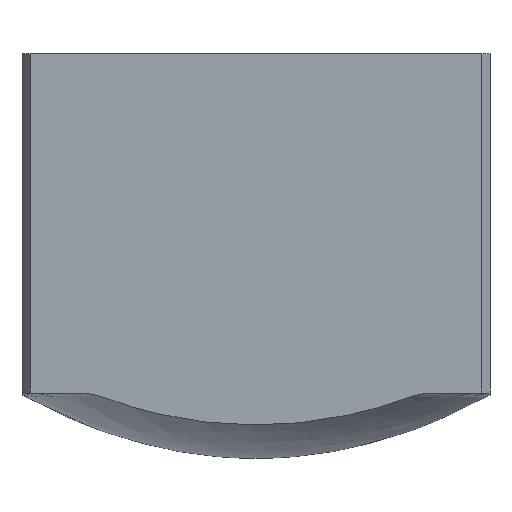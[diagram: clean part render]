
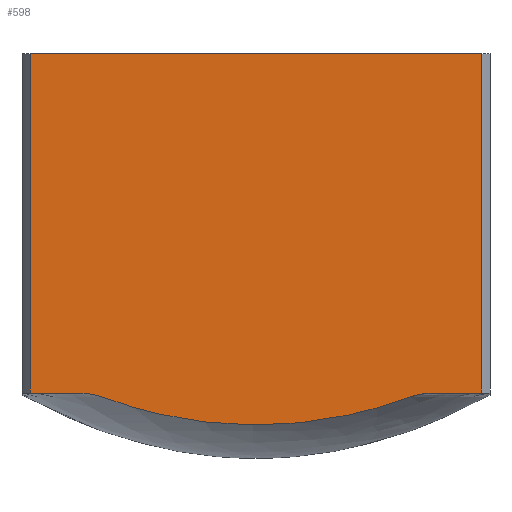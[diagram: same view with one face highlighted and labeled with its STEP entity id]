
A CAD part, front view. The second image highlights one B-rep face of the part: STEP entity #598.
In plain terms, the highlighted planar face has unit normal (0, -1, 0).
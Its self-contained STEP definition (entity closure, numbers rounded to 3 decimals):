
#31=DIRECTION('',(-1.,0.,0.));
#32=VECTOR('',#31,1.427);
#33=CARTESIAN_POINT('',(0.714,-0.54,1.28));
#34=LINE('',#33,#32);
#44=DIRECTION('',(0.,0.,1.));
#45=VECTOR('',#44,1.073);
#46=CARTESIAN_POINT('',(-0.714,-0.54,0.207));
#47=LINE('',#46,#45);
#52=DIRECTION('',(0.,0.,1.));
#53=VECTOR('',#52,1.073);
#54=CARTESIAN_POINT('',(0.714,-0.54,0.207));
#55=LINE('',#54,#53);
#70=DIRECTION('',(-1.,0.,0.));
#71=VECTOR('',#70,0.156);
#72=CARTESIAN_POINT('',(-0.557,-0.54,0.207));
#73=LINE('',#72,#71);
#115=DIRECTION('',(-1.,0.,0.));
#116=VECTOR('',#115,0.156);
#117=CARTESIAN_POINT('',(0.714,-0.54,0.207));
#118=LINE('',#117,#116);
#133=CARTESIAN_POINT('',(0.557,-0.54,0.207));
#134=CARTESIAN_POINT('',(0.549,-0.54,0.207));
#135=CARTESIAN_POINT('',(0.534,-0.54,0.206));
#136=CARTESIAN_POINT('',(0.51,-0.54,0.202));
#137=CARTESIAN_POINT('',(0.495,-0.54,0.197));
#138=CARTESIAN_POINT('',(0.488,-0.54,0.194));
#165=CARTESIAN_POINT('',(-0.488,-0.54,0.194));
#166=CARTESIAN_POINT('',(-0.495,-0.54,0.197));
#167=CARTESIAN_POINT('',(-0.51,-0.54,0.202));
#168=CARTESIAN_POINT('',(-0.534,-0.54,0.206));
#169=CARTESIAN_POINT('',(-0.549,-0.54,0.207));
#170=CARTESIAN_POINT('',(-0.557,-0.54,0.207));
#238=CARTESIAN_POINT('',(0.488,-0.54,0.194));
#239=CARTESIAN_POINT('',(0.464,-0.54,0.185));
#240=CARTESIAN_POINT('',(0.417,-0.54,0.17));
#241=CARTESIAN_POINT('',(0.357,-0.54,0.152));
#242=CARTESIAN_POINT('',(0.303,-0.54,0.139));
#243=CARTESIAN_POINT('',(0.254,-0.54,0.129));
#244=CARTESIAN_POINT('',(0.208,-0.54,0.121));
#245=CARTESIAN_POINT('',(0.163,-0.54,0.115));
#246=CARTESIAN_POINT('',(0.116,-0.54,0.11));
#247=CARTESIAN_POINT('',(0.07,-0.54,0.107));
#248=CARTESIAN_POINT('',(0.024,-0.54,0.106));
#249=CARTESIAN_POINT('',(-0.023,-0.54,0.106));
#250=CARTESIAN_POINT('',(-0.069,-0.54,0.107));
#251=CARTESIAN_POINT('',(-0.116,-0.54,0.11));
#252=CARTESIAN_POINT('',(-0.163,-0.54,0.115));
#253=CARTESIAN_POINT('',(-0.208,-0.54,0.121));
#254=CARTESIAN_POINT('',(-0.255,-0.54,0.129));
#255=CARTESIAN_POINT('',(-0.304,-0.54,0.139));
#256=CARTESIAN_POINT('',(-0.357,-0.54,0.152));
#257=CARTESIAN_POINT('',(-0.417,-0.54,0.17));
#258=CARTESIAN_POINT('',(-0.464,-0.54,0.185));
#259=CARTESIAN_POINT('',(-0.488,-0.54,0.194));
#426=CARTESIAN_POINT('',(0.714,-0.54,1.28));
#427=CARTESIAN_POINT('',(-0.714,-0.54,1.28));
#428=VERTEX_POINT('',#426);
#429=VERTEX_POINT('',#427);
#446=CARTESIAN_POINT('',(0.714,-0.54,0.207));
#447=CARTESIAN_POINT('',(0.557,-0.54,0.207));
#448=VERTEX_POINT('',#446);
#449=VERTEX_POINT('',#447);
#450=CARTESIAN_POINT('',(-0.557,-0.54,0.207));
#451=CARTESIAN_POINT('',(-0.714,-0.54,0.207));
#452=VERTEX_POINT('',#450);
#453=VERTEX_POINT('',#451);
#455=VERTEX_POINT('',#165);
#463=VERTEX_POINT('',#238);
#578=CARTESIAN_POINT('',(0.74,-0.54,0.));
#579=DIRECTION('',(0.,1.,0.));
#580=DIRECTION('',(-1.,0.,0.));
#581=AXIS2_PLACEMENT_3D('',#578,#579,#580);
#582=PLANE('',#581);
#583=ORIENTED_EDGE('',*,*,#519,.F.);
#584=ORIENTED_EDGE('',*,*,#572,.F.);
#586=ORIENTED_EDGE('',*,*,#585,.T.);
#588=ORIENTED_EDGE('',*,*,#587,.T.);
#590=ORIENTED_EDGE('',*,*,#589,.T.);
#592=ORIENTED_EDGE('',*,*,#591,.T.);
#594=ORIENTED_EDGE('',*,*,#593,.T.);
#595=ORIENTED_EDGE('',*,*,#556,.T.);
#596=EDGE_LOOP('',(#583,#584,#586,#588,#590,#592,#594,#595));
#597=FACE_OUTER_BOUND('',#596,.F.);
#598=ADVANCED_FACE('',(#597),#582,.F.);
#139=B_SPLINE_CURVE_WITH_KNOTS('',3,(#133,#134,#135,#136,#137,#138),
.UNSPECIFIED.,.F.,.F.,(4,1,1,4),(0.,0.333,0.667,1.),
.UNSPECIFIED.);
#171=B_SPLINE_CURVE_WITH_KNOTS('',3,(#165,#166,#167,#168,#169,#170),
.UNSPECIFIED.,.F.,.F.,(4,1,1,4),(0.,0.333,0.667,1.),
.UNSPECIFIED.);
#260=B_SPLINE_CURVE_WITH_KNOTS('',3,(#238,#239,#240,#241,#242,#243,#244,#245,
#246,#247,#248,#249,#250,#251,#252,#253,#254,#255,#256,#257,#258,#259),
.UNSPECIFIED.,.F.,.F.,(4,1,1,1,1,1,1,1,1,1,1,1,1,1,1,1,1,1,1,4),(0.,
0.053,0.105,0.158,0.211,
0.263,0.316,0.368,0.421,
0.474,0.526,0.579,0.632,
0.684,0.737,0.789,0.842,
0.895,0.947,1.),.UNSPECIFIED.);
#519=EDGE_CURVE('',#428,#429,#34,.T.);
#556=EDGE_CURVE('',#453,#429,#47,.T.);
#572=EDGE_CURVE('',#448,#428,#55,.T.);
#585=EDGE_CURVE('',#448,#449,#118,.T.);
#587=EDGE_CURVE('',#449,#463,#139,.T.);
#589=EDGE_CURVE('',#463,#455,#260,.T.);
#591=EDGE_CURVE('',#455,#452,#171,.T.);
#593=EDGE_CURVE('',#452,#453,#73,.T.);
